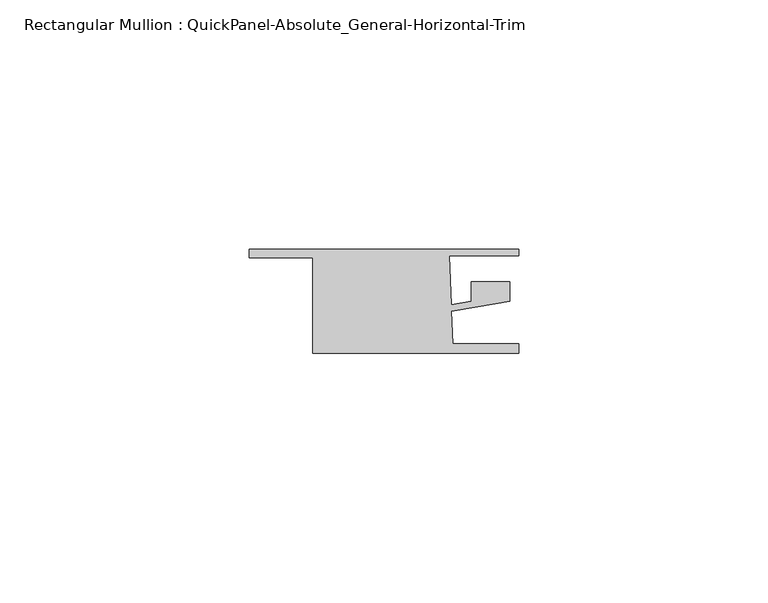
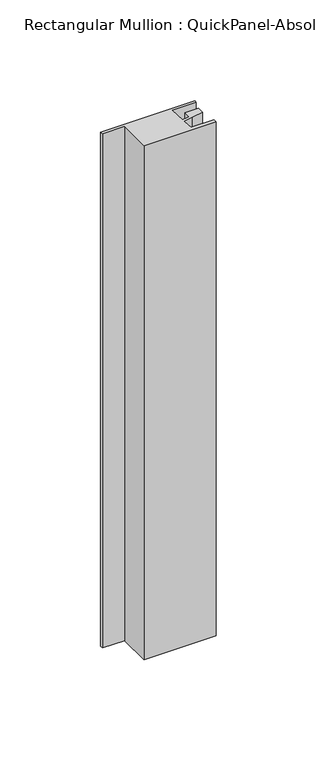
"""IFC4 building model written with IfcOpenShell, lengths in millimetres: member geometry, Rectangular Mullion : QuickPanel-Absolute_General-Horizontal-Trim."""

from ifc_helpers import new_model, si_unit, frame, origin, place, context, project, spatial, polyline, outline, extrude, source, transform, mapped, element, save


def rectangular_mullion_quickpanel_absolute_general_horizontal_0a3c93b0(model_context):
    return source(origin(), model_context, "Body", "SweptSolid", [
        extrude(outline(polyline([(28.3897075, -8.6293878), (-12.9047811, -8.6293878), (-12.9047811, 10.4985348), (-25.5852925, 10.4985348), (-25.5852925, 12.1803727), (28.3897075, 12.1803727), (28.3897075, 10.9303752), (14.533354, 10.9303752), (14.8772811, 1.0815922), (18.86285, 1.7648465), (18.86285, 5.6493034), (26.6076231, 5.6493034), (26.6076231, 1.8040245), (20.1722905, 0.7008023), (14.9220096, -0.1992641), (15.1487948, -6.6935423), (28.3897075, -6.6935423), (28.3897075, -8.6293878)])), frame((0.0, 0.0, -311.0914708), z_axis=(0.0, 0.0, 1.0), x_axis=(1.0, 0.0, 0.0)), (0.0, 0.0, 1.0), 311.0914708),
    ])


if __name__ == "__main__":
    model = new_model("IFC4")
    model_context = context("Model", 3, world=origin())
    ifc_project = project(units=[si_unit("LENGTHUNIT", "METRE", prefix="MILLI")], contexts=[model_context])
    site = spatial("IfcSite", under=ifc_project)
    building = spatial("IfcBuilding", under=site)
    placement = place(None, origin())
    rectangular_mullion_quickpanel_absolute_general_horizontal_shape = rectangular_mullion_quickpanel_absolute_general_horizontal_0a3c93b0(model_context)
    element("IfcMember", 1, ObjectType="Rectangular Mullion : QuickPanel-Absolute_General-Horizontal-Trim", at=placement, inside=building, context=model_context, shape_type="MappedRepresentation", body=[
        mapped(rectangular_mullion_quickpanel_absolute_general_horizontal_shape, transform((0.0, 0.0, 0.0), x_axis=(1.0, 0.0, 0.0), y_axis=(0.0, 1.0, 0.0), z_axis=(0.0, 0.0, 1.0))),
    ])
    save(model, "model.ifc")
